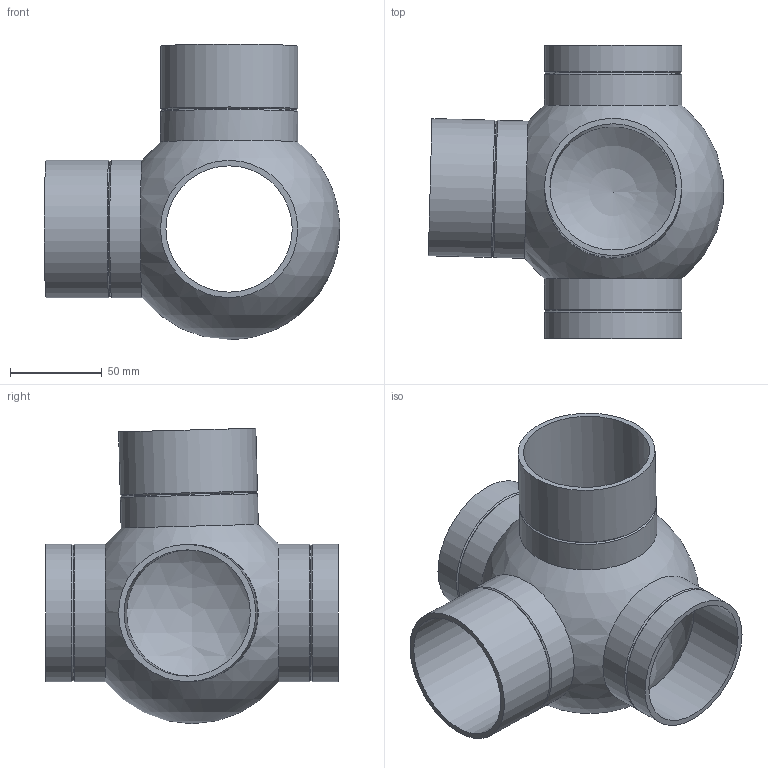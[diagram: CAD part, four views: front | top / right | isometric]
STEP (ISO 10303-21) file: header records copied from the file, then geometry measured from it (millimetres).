
FILE_DESCRIPTION(/* description */ (''),/* implementation_level */ '2;1');
FILE_NAME(/* name */ 'Z:\Geberit\Export\NewStep\365325.stp',/* time_stamp */ '2014-04-02T07:34:00+02:00',/* author */ ('nelson'),/* organization */ (''),/* preprocessor_version */ 'ST-DEVELOPER v15.2',/* originating_system */ 'Autodesk Inventor 2014',/* authorisation */ '');
FILE_SCHEMA (('AUTOMOTIVE_DESIGN { 1 0 10303 214 3 1 1 }'));
Length unit declared in the file: millimetre
Products named in the file (1): 365325
Bounding box: 161.34 x 160 x 161.45 mm (x, y, z)
Volume: 193568.3 mm3; surface area: 132630.3 mm2
Topology: 1 solids, 1 shells, 26 faces, 62 edges, 40 vertices
Faces by surface type: cylinder 12, cone 8, plane 4, sphere 2
Full cylindrical faces by diameter (mm): 69 x4, 75 x8
Entity records: 603 total; most frequent: DIRECTION 110, CARTESIAN_POINT 83, EDGE_LOOP 56, ORIENTED_EDGE 56, AXIS2_PLACEMENT_3D 55, FACE_BOUND 34, CIRCLE 28, VERTEX_POINT 28
